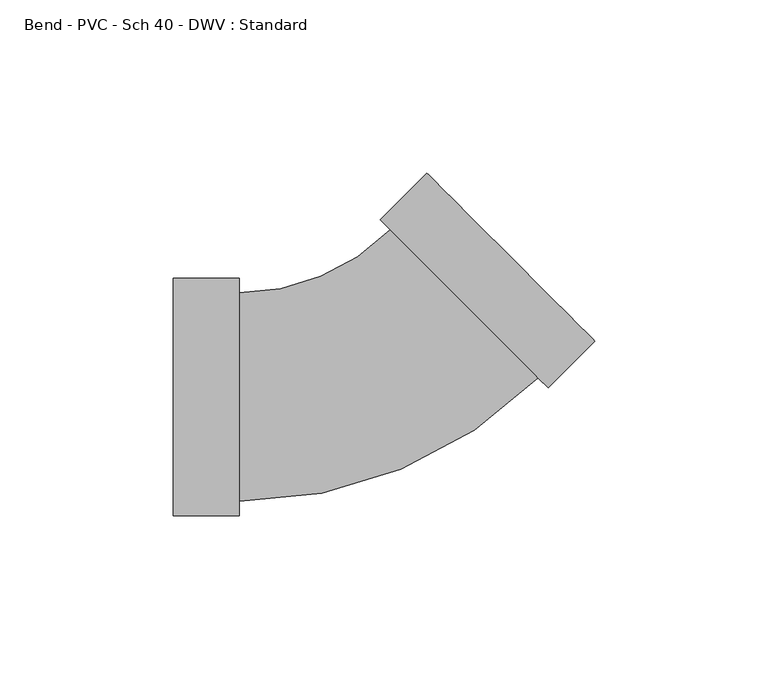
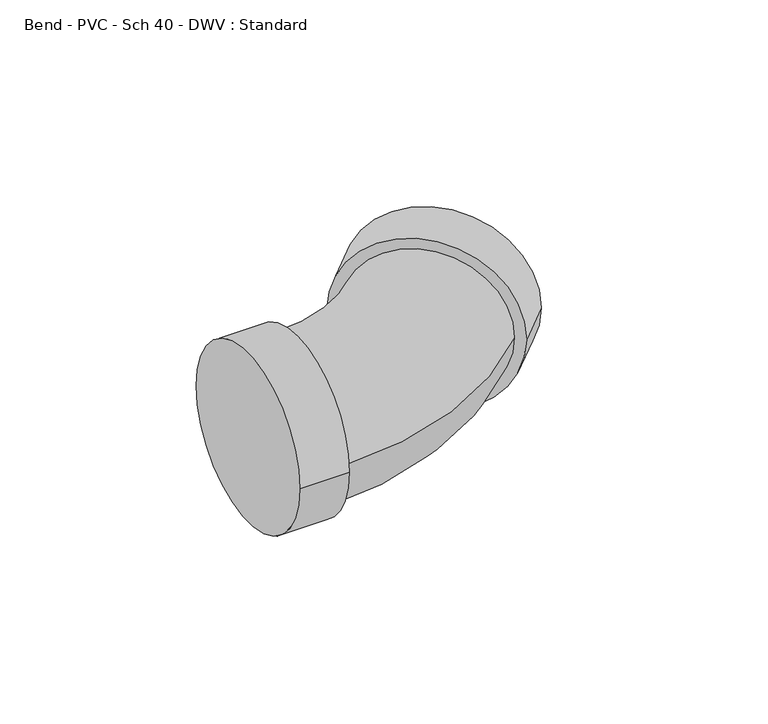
"""IFC4 building model written with IfcOpenShell, lengths in millimetres: pipe fitting geometry, Bend - PVC - Sch 40 - DWV : Standard."""

from ifc_helpers import new_model, si_unit, point, frame, origin, place, context, project, spatial, circle_curve, ellipse_curve, trimmed, source, transform, mapped, element, save
from ifc_brep_helpers import plane_surface, cylinder_surface, revolved_surface, advanced_brep


def bend_pvc_sch_40_dwv_standard_035f6e0a(model_context):
    return source(origin(), model_context, "Body", "AdvancedBrep", [
        advanced_brep(
        [(-57.15, -34.3154, 0.0), (-57.15, 34.3154, 0.0), (-38.1, -34.3154, 0.0), (-38.1, 34.3154, 0.0), (-38.1, -30.1625, 0.0), (-38.1, 30.1625, 0.0), (5.6148595, 48.2686209, 0.0), (48.2691323, 5.6104607, 0.0), (51.2055423, 2.6737831, 0.0), (2.6784495, 51.2052984, 0.0), (64.6765402, 16.1435535, 0.0), (16.1494475, 64.6750688, 0.0)],
        [
            (0, 1, circle_curve(frame((-57.15, 0.0, 0.0), z_axis=(-1.0, 0.0, 0.0), x_axis=(0.0, 1.0, 0.0)), 34.3154)),
            (1, 0, circle_curve(frame((-57.15, 0.0, 0.0), z_axis=(-1.0, 0.0, 0.0), x_axis=(0.0, 1.0, 0.0)), 34.3154)),
            (2, 3, circle_curve(frame((-38.1, 0.0, 0.0), z_axis=(1.0, 0.0, 0.0), x_axis=(0.0, 1.0, 0.0)), 34.3154)),
            (3, 2, circle_curve(frame((-38.1, 0.0, 0.0), z_axis=(1.0, 0.0, 0.0), x_axis=(0.0, 1.0, 0.0)), 34.3154)),
            (4, 5, circle_curve(frame((-38.1, 0.0, 0.0), z_axis=(-1.0, 0.0, 0.0), x_axis=(0.0, 1.0, 0.0)), 30.1625)),
            (5, 4, circle_curve(frame((-38.1, 0.0, 0.0), z_axis=(-1.0, 0.0, 0.0), x_axis=(0.0, 1.0, 0.0)), 30.1625)),
            (0, 2),
            (3, 1),
            (6, 5, circle_curve(frame((-38.1, 91.9874643, 0.0), z_axis=(0.0, 0.0, -1.0), x_axis=(0.0, -1.0, 0.0)), 61.8249643)),
            (4, 7, circle_curve(frame((-38.1, 91.9874643, 0.0), z_axis=(0.0, 0.0, 1.0), x_axis=(0.0, -1.0, 0.0)), 122.1499643)),
            (7, 6, circle_curve(frame((26.9419959, 26.9395408, 0.0), z_axis=(-0.7071390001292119, -0.7070745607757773, 0.0), x_axis=(-0.7070745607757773, 0.7071390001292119, 0.0)), 30.1625)),
            (6, 7, circle_curve(frame((26.9419959, 26.9395408, 0.0), z_axis=(-0.7071390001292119, -0.7070745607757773, 0.0), x_axis=(-0.7070745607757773, 0.7071390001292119, 0.0)), 30.1625)),
            (8, 9, circle_curve(frame((26.9419959, 26.9395408, 0.0), z_axis=(-0.707139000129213, -0.7070745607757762, 0.0), x_axis=(-0.7070745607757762, 0.707139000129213, 0.0)), 34.3154)),
            (9, 8, circle_curve(frame((26.9419959, 26.9395408, 0.0), z_axis=(-0.707139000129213, -0.7070745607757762, 0.0), x_axis=(-0.7070745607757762, 0.707139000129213, 0.0)), 34.3154)),
            (10, 11, circle_curve(frame((40.4129939, 40.4093111, 0.0), z_axis=(0.707139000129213, 0.7070745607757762, 0.0), x_axis=(-0.7070745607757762, 0.707139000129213, 0.0)), 34.3154)),
            (11, 10, circle_curve(frame((40.4129939, 40.4093111, 0.0), z_axis=(0.707139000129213, 0.7070745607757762, 0.0), x_axis=(-0.7070745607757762, 0.707139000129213, 0.0)), 34.3154)),
            (8, 10),
            (11, 9),
        ],
        [
            plane_surface(frame((-57.15, 0.0, 0.0), z_axis=(-1.0, 0.0, 0.0), x_axis=(0.0, 0.0, 1.0))),
            plane_surface(frame((-38.1, 0.0, 0.0), z_axis=(1.0, 0.0, 0.0), x_axis=(0.0, 0.0, 1.0))),
            cylinder_surface(frame((-57.15, 0.0, 0.0), z_axis=(-1.0, 0.0, 0.0), x_axis=(0.0, 1.0, 0.0)), 34.3154),
            revolved_surface(trimmed(ellipse_curve(frame((-38.1, 0.0, 0.0), z_axis=(-1.0, 0.0, 0.0), x_axis=(0.0, 1.0, 0.0)), 30.1625, 30.1625), [point((-38.1, -30.1625, 0.0))], [point((-38.1, 30.1625, 0.0))], True, "CARTESIAN"), (-38.1, 91.9874643, 0.0), (0.0, 0.0, 1.0)),
            revolved_surface(trimmed(ellipse_curve(frame((-38.1, 0.0, 0.0), z_axis=(-1.0, 0.0, 0.0), x_axis=(0.0, 1.0, 0.0)), 30.1625, 30.1625), [point((-38.1, 30.1625, 0.0))], [point((-38.1, -30.1625, 0.0))], True, "CARTESIAN"), (-38.1, 91.9874643, 0.0), (0.0, 0.0, 1.0)),
            plane_surface(frame((26.9419959, 26.9395408, 0.0), z_axis=(-0.707139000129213, -0.7070745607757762, 0.0), x_axis=(0.0, 0.0, 1.0))),
            plane_surface(frame((40.4129939, 40.4093111, 0.0), z_axis=(0.707139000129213, 0.7070745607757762, 0.0), x_axis=(0.0, 0.0, 1.0))),
            cylinder_surface(frame((26.9419959, 26.9395408, 0.0), z_axis=(-0.707139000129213, -0.7070745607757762, 0.0), x_axis=(-0.7070745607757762, 0.707139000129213, 0.0)), 34.3154),
        ],
        [
            (0, [[1, 2]]),
            (1, [[3, 4], [5, 6]]),
            (2, [[-1, 7, -4, 8]]),
            (2, [[-2, -8, -3, -7]]),
            (3, [[9, -5, 10, 11]]),
            (4, [[-9, 12, -10, -6]]),
            (5, [[13, 14], [-11, -12]]),
            (6, [[15, 16]]),
            (7, [[-13, 17, -16, 18]]),
            (7, [[-14, -18, -15, -17]]),
        ],
    ),
    ])


if __name__ == "__main__":
    model = new_model("IFC4")
    model_context = context("Model", 3, world=origin())
    ifc_project = project(units=[si_unit("LENGTHUNIT", "METRE", prefix="MILLI")], contexts=[model_context])
    site = spatial("IfcSite", under=ifc_project)
    building = spatial("IfcBuilding", under=site)
    placement = place(None, origin())
    bend_pvc_sch_40_dwv_standard_shape = bend_pvc_sch_40_dwv_standard_035f6e0a(model_context)
    element("IfcPipeFitting", 1, ObjectType="Bend - PVC - Sch 40 - DWV : Standard", at=placement, inside=building, context=model_context, shape_type="MappedRepresentation", body=[
        mapped(bend_pvc_sch_40_dwv_standard_shape, transform((0.0, 0.0, 0.0), x_axis=(1.0, 0.0, 0.0), y_axis=(0.0, 1.0, 0.0), z_axis=(0.0, 0.0, 1.0))),
    ])
    save(model, "model.ifc")
